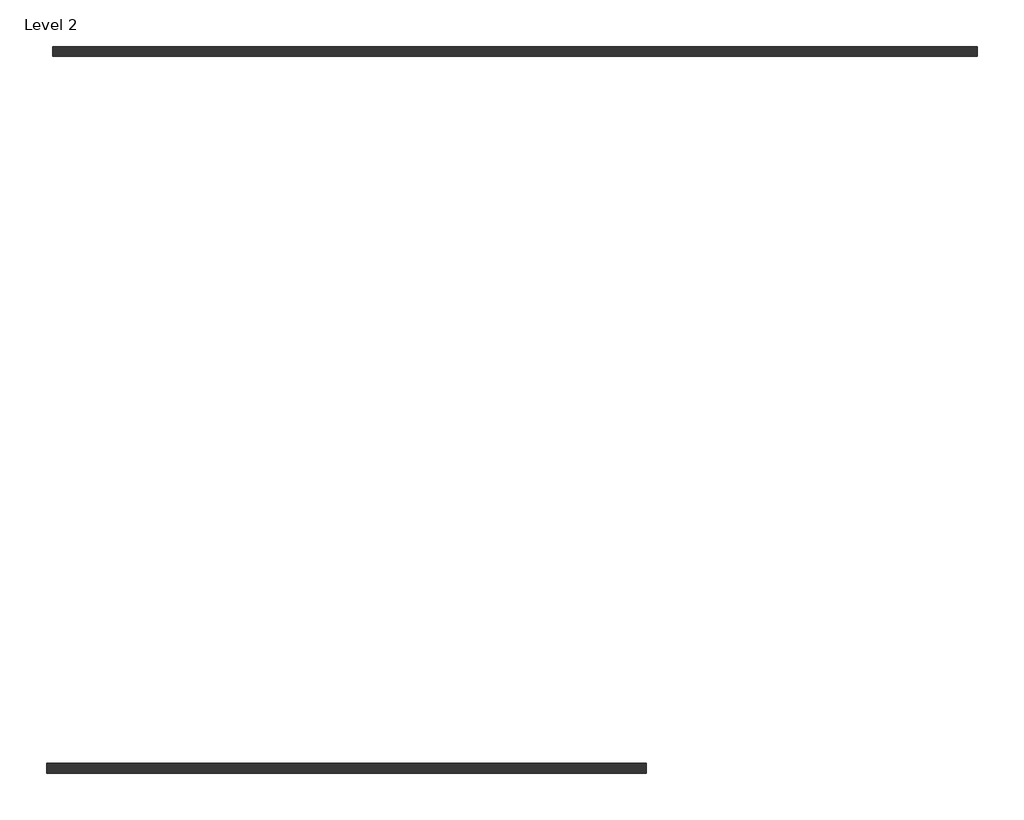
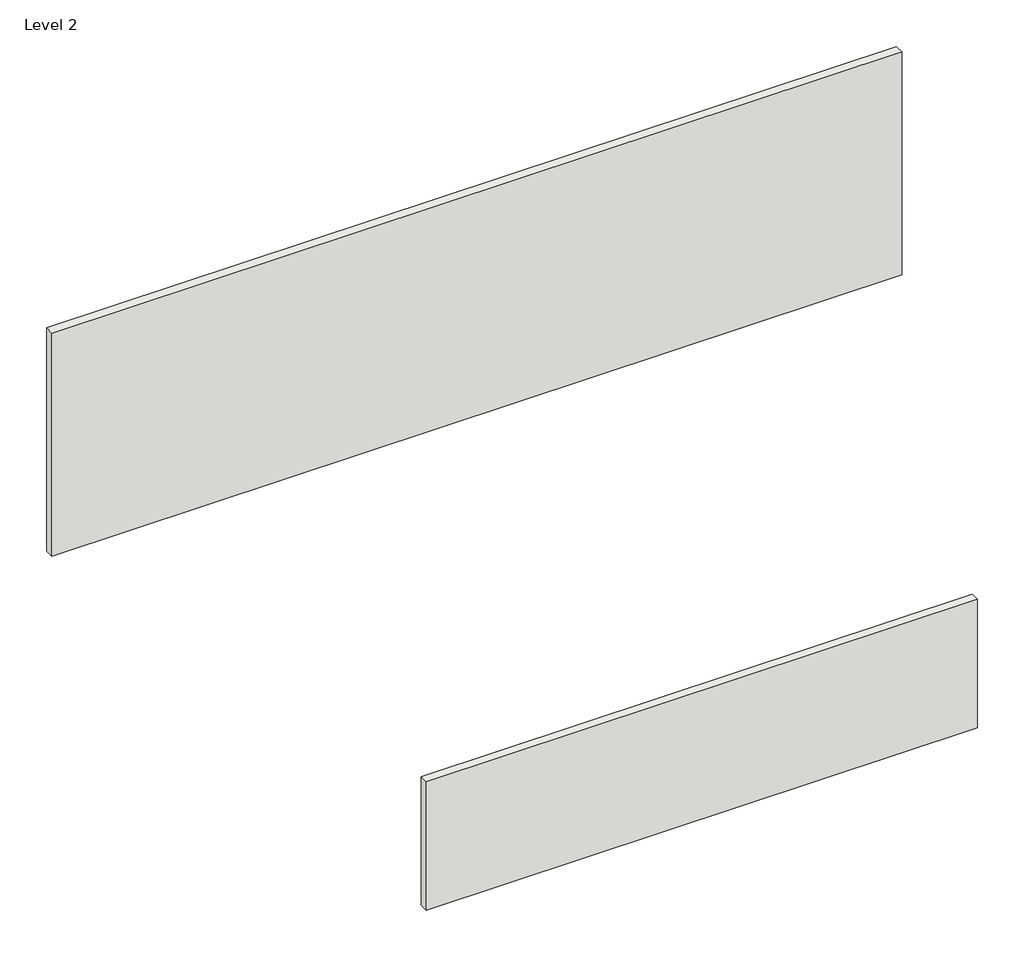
# One storey: 2 walls.
"""IFC4 building model written with IfcOpenShell, lengths in millimetres."""

from ifc_helpers import new_model, si_unit, origin, place, context, project, spatial, faceted_brep, element, save

model = new_model("IFC4")

# Units and contexts
model_context = context("Model", 3, world=origin())
ifc_project = project(units=[si_unit("LENGTHUNIT", "METRE", prefix="MILLI")], contexts=[model_context])

# Site, building, storey
site = spatial("IfcSite", under=ifc_project)
building = spatial("IfcBuilding", under=site)
storey = spatial("IfcBuildingStorey", under=building, Name="Level 2", Elevation=3048.0)

# Walls
placement = place(None, origin())
element("IfcWall", 1, ObjectType="Generic - 8\"", at=placement, inside=storey, context=model_context, shape_type="Brep", body=[
    faceted_brep([(-13654.5019194, 8679.919631, 3048.0), (5422.8980806, 8679.919631, 3048.0), (5422.8980806, 8679.919631, 8345.7318304), (-13654.5019194, 8679.919631, 8345.7318304), (-13654.5019194, 8883.119631, 3048.0), (-13654.5019194, 8883.119631, 3657.6), (-13654.5019194, 8883.119631, 8345.7318304), (5422.8980806, 8883.119631, 8345.7318304), (5422.8980806, 8883.119631, 3048.0)], [[[0, 1, 2, 3]], [[4, 5, 6, 7, 8]], [[1, 0, 4, 8]], [[2, 1, 8, 7]], [[3, 2, 7, 6]], [[0, 3, 6, 5, 4]]]),
])
element("IfcWall", 2, ObjectType="Generic - 8\"", at=placement, inside=storey, context=model_context, shape_type="Brep", body=[
    faceted_brep([(-13779.5019194, -6102.880369, 3657.6), (-1407.7019194, -6102.880369, 3657.6), (-1407.7019194, -6102.880369, 4572.0), (-1407.7019194, -6102.880369, 6705.6), (-13779.5019194, -6102.880369, 6705.6), (-13779.5019194, -5899.680369, 3657.6), (-13779.5019194, -5899.680369, 6705.6), (-1407.7019194, -5899.680369, 6705.6), (-1407.7019194, -5899.680369, 3657.6)], [[[0, 1, 2, 3, 4]], [[5, 6, 7, 8]], [[1, 0, 5, 8]], [[4, 3, 7, 6]], [[0, 4, 6, 5]], [[3, 2, 1, 8, 7]]]),
])

save(model, "model.ifc")
